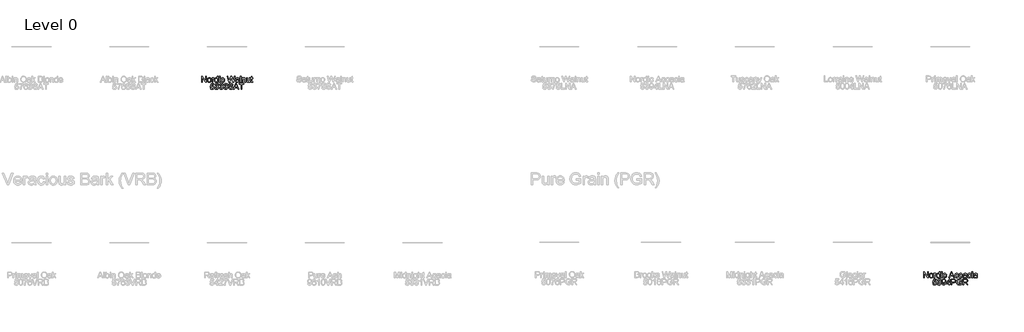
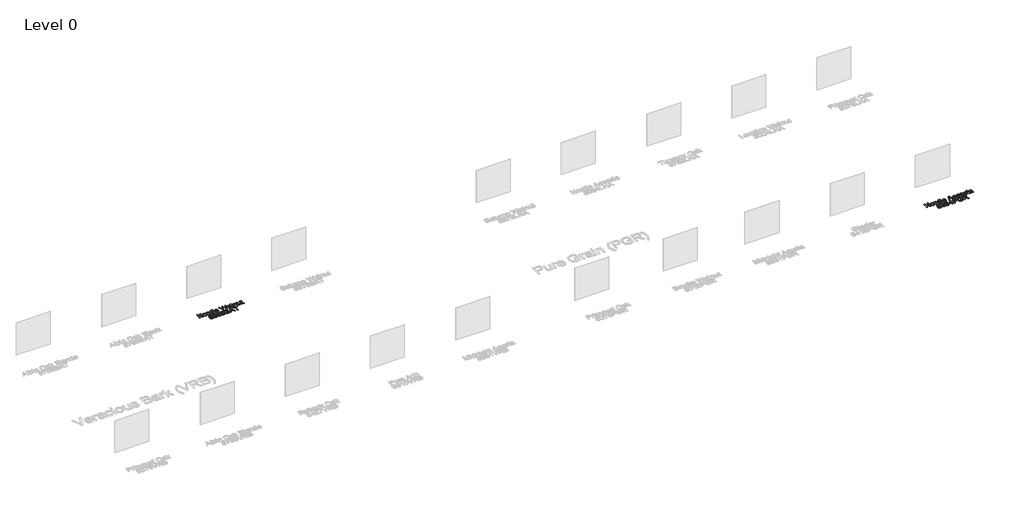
# One storey, part 21 of 43: 2 proxies.
"""IFC4 building model written with IfcOpenShell, lengths in millimetres."""

from ifc_helpers import new_model, si_unit, origin, origin_with_axes, place, context, project, spatial, polyline, outline, extrude, element, save

model = new_model("IFC4")

# Units and contexts
model_context = context("Model", 3, world=origin())
ifc_project = project(units=[si_unit("LENGTHUNIT", "METRE", prefix="MILLI")], contexts=[model_context])

# Site, building, storey
site = spatial("IfcSite", under=ifc_project)
building = spatial("IfcBuilding", under=site)
storey = spatial("IfcBuildingStorey", under=building, Name="Level 0", Elevation=0.0)

# Proxies
placement = place(None, origin())
element("IfcBuildingElementProxy", 1, Name="300mm Arial", ObjectType="300mm Arial", at=placement, inside=storey, context=model_context, shape_type="SweptSolid", body=[
    extrude(outline(polyline([(-743.2482346, -27017.4454346), (-743.2482346, -26716.0765041), (-702.9283679, -26716.0765041), (-545.474874, -26954.831919), (-545.474874, -26716.0765041), (-507.8037576, -26716.0765041), (-507.8037576, -27017.4454346), (-548.1236243, -27017.4454346), (-705.5771183, -26778.6164433), (-705.5771183, -27017.4454346), (-743.2482346, -27017.4454346)])), origin_with_axes(), (0.0, 0.0, 1.0), 10.0),
    extrude(outline(polyline([(-456.0059727, -26906.7865304), (-453.9688262, -26878.1239245), (-447.8573865, -26853.425247), (-437.6716538, -26832.690498), (-423.411628, -26815.9196776), (-409.0550331, -26805.200516), (-393.2085161, -26797.5439719), (-375.8720771, -26792.9500455), (-357.045716, -26791.4187367), (-336.2626826, -26793.2834386), (-317.4708104, -26798.8775442), (-300.6700995, -26808.2010535), (-285.86055, -26821.2539665), (-273.7733272, -26837.5948249), (-265.1395966, -26856.7821702), (-259.9593582, -26878.8160025), (-258.2326121, -26903.6963216), (-261.2860327, -26941.753714), (-270.4462944, -26970.7244212), (-285.4466827, -26992.4202618), (-306.0204833, -27008.6530549), (-330.4570448, -27018.7790068), (-357.045716, -27022.1543241), (-378.1322521, -27020.29652), (-397.0988682, -27014.7231078), (-413.9455644, -27005.4340874), (-428.6723405, -26992.4294589), (-440.6308046, -26975.9299514), (-449.1725647, -26956.1562942), (-454.2976207, -26933.1084872), (-456.0059727, -26906.7865304)]), holes=[polyline([(-418.3348564, -26906.712954), (-413.9754548, -26940.8064179), (-400.8972498, -26965.0958266), (-381.2155631, -26979.6363625), (-357.045716, -26984.4832078), (-332.9862335, -26979.6087713), (-313.341335, -26964.985462), (-300.2631301, -26940.3741566), (-295.9037284, -26905.5357316), (-300.2907212, -26872.4355491), (-313.4516996, -26848.4772342), (-333.1241893, -26833.9366983), (-357.045716, -26829.089853), (-381.2155631, -26833.9183042), (-400.8972498, -26848.4036578), (-413.9754548, -26872.6378842), (-418.3348564, -26906.712954)])]), origin_with_axes(), (0.0, 0.0, 1.0), 10.0),
    extrude(outline(polyline([(-215.8526063, -27017.4454346), (-215.8526063, -26796.1276263), (-182.8903795, -26796.1276263), (-182.8903795, -26828.8691238), (-170.7134855, -26809.8864129), (-159.4930846, -26798.7028002), (-148.2358956, -26793.2397526), (-135.9486369, -26791.4187367), (-117.1866552, -26794.3250045), (-98.1303678, -26803.0438078), (-110.7119321, -26836.8153749), (-123.9556839, -26831.0212335), (-137.1994357, -26829.089853), (-148.4474277, -26830.9476571), (-158.4998032, -26836.5210693), (-166.6207983, -26845.3870254), (-172.0746488, -26857.1224611), (-176.6547797, -26878.1653112), (-178.18149, -26901.1211477), (-178.18149, -27017.4454346), (-215.8526063, -27017.4454346)])), origin_with_axes(), (0.0, 0.0, 1.0), 10.0),
    extrude(outline(polyline([(61.9718765, -27017.4454346), (61.9718765, -26981.9080338), (50.7008919, -26999.5157858), (37.0478713, -27012.0927515), (21.0128148, -27019.6389309), (2.5957225, -27022.1543241), (-21.7580656, -27018.5122923), (-44.0517145, -27007.5861971), (-62.9240609, -26990.1393935), (-77.0139413, -26966.9352366), (-85.7879269, -26938.9118256), (-88.7125887, -26907.0072596), (-86.0178531, -26875.4981667), (-77.9336463, -26847.0424944), (-64.4691653, -26823.2589234), (-45.6336071, -26805.7661345), (-22.8525146, -26795.0055862), (2.4485697, -26791.4187367), (20.8794576, -26793.9847136), (37.17663, -26801.6826444), (50.9905989, -26813.4824594), (61.9718765, -26828.354089), (61.9718765, -26716.0765041), (99.6429928, -26716.0765041), (99.6429928, -27017.4454346), (61.9718765, -27017.4454346)]), holes=[polyline([(-51.0414724, -26906.8601068), (-46.7924354, -26940.9351766), (-34.0453243, -26965.169403), (-15.5224658, -26979.6547566), (6.0538132, -26984.4832078), (27.6208952, -26979.8754858), (45.6747041, -26966.0523198), (57.8975834, -26942.7561925), (61.9718765, -26909.7295864), (57.824007, -26873.6219685), (45.3803985, -26848.5875988), (26.8667371, -26833.9642895), (4.5087088, -26829.089853), (-17.2882994, -26833.7711514), (-35.1489702, -26847.8150466), (-47.0683469, -26871.9389084), (-51.0414724, -26906.8601068)])]), origin_with_axes(), (0.0, 0.0, 1.0), 10.0),
    extrude(outline(polyline([(156.1496672, -26753.7476204), (156.1496672, -26716.0765041), (193.8207836, -26716.0765041), (193.8207836, -26753.7476204), (156.1496672, -26753.7476204)])), origin_with_axes(), (0.0, 0.0, 1.0), 10.0),
    extrude(outline(polyline([(156.1496672, -27017.4454346), (156.1496672, -26796.1276263), (193.8207836, -26796.1276263), (193.8207836, -27017.4454346), (156.1496672, -27017.4454346)])), origin_with_axes(), (0.0, 0.0, 1.0), 10.0),
    extrude(outline(polyline([(391.5941442, -26937.3943124), (429.2652605, -26942.1032019), (418.7622295, -26975.6080546), (399.0253605, -27000.927533), (371.9124574, -27016.8476263), (339.2813244, -27022.1543241), (318.1534016, -27020.3034178), (299.2097781, -27014.7506989), (282.450454, -27005.4961675), (267.8754292, -26992.5398235), (256.0779135, -26976.1253887), (247.6511165, -26956.496585), (242.5950383, -26933.6534124), (240.9096789, -26907.5958708), (243.7883555, -26874.072624), (252.4243854, -26845.0191434), (266.9557242, -26821.5574692), (287.5203277, -26804.8096413), (312.1224362, -26794.7664629), (338.7662897, -26791.4187367), (370.5972793, -26796.0172617), (396.0455163, -26809.8128365), (414.3016603, -26832.0696972), (424.5563709, -26862.0520798), (386.8852546, -26866.7609693), (380.0518466, -26850.3258412), (369.4108599, -26838.5444203), (355.5509057, -26831.4534948), (339.0605952, -26829.089853), (314.7160042, -26833.7435603), (295.3930024, -26847.704682), (282.783847, -26871.7273763), (278.5807952, -26906.5658012), (282.6918765, -26941.8732757), (295.0251204, -26965.9787434), (313.9986343, -26979.8570917), (338.0305257, -26984.4832078), (357.5374685, -26981.5953341), (373.5311382, -26972.9317131), (385.1654063, -26958.2716156), (391.5941442, -26937.3943124)])), origin_with_axes(), (0.0, 0.0, 1.0), 10.0),
    extrude(outline(polyline([(638.5901157, -27017.4454346), (556.405278, -26716.0765041), (595.2536167, -26716.0765041), (642.9311233, -26914.1441703), (657.6464031, -26975.2861579), (673.3917525, -26921.2075046), (733.1357885, -26716.0765041), (789.1274281, -26716.0765041), (832.5375036, -26864.7744066), (851.1339384, -26919.9567058), (864.8375428, -26975.2861579), (879.1113642, -26915.9100039), (927.2303291, -26716.0765041), (966.0786678, -26716.0765041), (883.8202537, -27017.4454346), (843.5739634, -27017.4454346), (771.3219396, -26784.9440136), (761.2419729, -26752.4968216), (749.9112075, -26791.5658895), (684.0603303, -27017.4454346), (638.5901157, -27017.4454346)])), origin_with_axes(), (0.0, 0.0, 1.0), 10.0),
    extrude(outline(polyline([(1140.3075807, -26989.1920973), (1122.3089541, -27004.624747), (1103.7768986, -27014.7231078), (1084.2883499, -27020.29652), (1063.4202438, -27022.1543241), (1031.938742, -27017.6845578), (1008.7161911, -27004.2752591), (994.3963844, -26983.9129907), (989.6231155, -26958.5843153), (991.4257373, -26942.9677246), (996.8336026, -26928.7858737), (1005.1753269, -26916.6457679), (1015.7795254, -26907.1544124), (1042.1566644, -26894.7935774), (1074.7510092, -26889.1281946), (1113.2682541, -26883.1685063), (1140.0868515, -26876.1787484), (1140.3075807, -26867.7910389), (1137.7140127, -26850.9788317), (1129.9333085, -26839.9791601), (1112.5324901, -26831.8121798), (1088.2890666, -26829.089853), (1065.8482649, -26830.9016718), (1050.1764919, -26836.3371283), (1039.48952, -26846.3895038), (1032.0031214, -26862.0520798), (994.3320051, -26857.3431903), (1000.8711075, -26836.7417985), (1010.6291774, -26820.5549907), (1024.5167228, -26808.1757616), (1043.4442514, -26798.9971058), (1066.593226, -26793.313329), (1093.145109, -26791.4187367), (1118.6117401, -26793.0925998), (1138.7992646, -26798.114189), (1154.0203821, -26805.664967), (1164.5877924, -26814.9263962), (1171.5959444, -26826.3767233), (1176.1392871, -26840.4941949), (1177.9786971, -26873.4564216), (1177.9786971, -26920.3245878), (1179.8916834, -26985.7707948), (1187.3964761, -27017.4454346), (1149.7253598, -27017.4454346), (1140.3075807, -26989.1920973)]), holes=[polyline([(1140.3075807, -26913.8498647), (1079.5334751, -26925.4013594), (1047.1230714, -26931.5082005), (1032.4445798, -26941.4410143), (1027.2942318, -26955.935565), (1030.099332, -26967.1375717), (1038.5146327, -26976.3162275), (1052.3561927, -26982.4414627), (1071.4400712, -26984.4832078), (1091.673581, -26982.2299306), (1109.5526459, -26975.4700989), (1124.0471966, -26965.5096939), (1134.1271632, -26953.6546966), (1138.5969295, -26941.4410143), (1140.0868515, -26924.5184426), (1140.3075807, -26913.8498647)])]), origin_with_axes(), (0.0, 0.0, 1.0), 10.0),
    extrude(outline(polyline([(1229.776482, -27017.4454346), (1229.776482, -26716.0765041), (1267.4475983, -26716.0765041), (1267.4475983, -27017.4454346), (1229.776482, -27017.4454346)])), origin_with_axes(), (0.0, 0.0, 1.0), 10.0),
    extrude(outline(polyline([(1323.9542727, -27017.4454346), (1323.9542727, -26796.1276263), (1361.625389, -26796.1276263), (1361.625389, -26827.0297138), (1374.712791, -26811.4499114), (1390.4305493, -26800.321481), (1408.7786638, -26793.6444228), (1429.7571345, -26791.4187367), (1448.3259783, -26793.2121614), (1465.3313235, -26798.5924356), (1479.5131744, -26806.8881746), (1489.6115352, -26817.4279938), (1500.9055124, -26845.129508), (1502.8920752, -26881.5498255), (1502.8920752, -27017.4454346), (1465.2209589, -27017.4454346), (1465.2209589, -26886.6265971), (1460.8799513, -26853.2964883), (1454.8742778, -26843.3728715), (1445.5392721, -26835.6749407), (1433.5739102, -26830.7361249), (1419.6771679, -26829.089853), (1397.6134452, -26832.7870671), (1378.8054782, -26843.8787092), (1371.2891892, -26852.9332048), (1365.9204113, -26865.3078354), (1361.625389, -26900.0175017), (1361.625389, -27017.4454346), (1323.9542727, -27017.4454346)])), origin_with_axes(), (0.0, 0.0, 1.0), 10.0),
    extrude(outline(polyline([(1695.9565463, -27017.4454346), (1695.9565463, -26979.4064362), (1682.3265183, -26998.1086372), (1666.4524102, -27011.4673521), (1648.334222, -27019.4825811), (1627.9719536, -27022.1543241), (1609.623839, -27020.2781259), (1592.5449174, -27014.6495314), (1578.2159137, -27006.1882455), (1568.1175529, -26995.8139732), (1556.8971521, -26968.0756708), (1554.6898601, -26933.0533049), (1554.6898601, -26796.1276263), (1592.3609764, -26796.1276263), (1592.3609764, -26915.3213927), (1594.6418448, -26953.728273), (1600.1324836, -26966.5397635), (1609.5410656, -26976.2794393), (1622.2421915, -26982.4322657), (1637.6104618, -26984.4832078), (1653.861649, -26982.3862804), (1669.0643724, -26976.0954983), (1681.5999514, -26966.1902756), (1689.8497051, -26953.2500264), (1694.429836, -26935.5273113), (1695.9565463, -26911.2746907), (1695.9565463, -26796.1276263), (1733.6276626, -26796.1276263), (1733.6276626, -27017.4454346), (1695.9565463, -27017.4454346)])), origin_with_axes(), (0.0, 0.0, 1.0), 10.0),
    extrude(outline(polyline([(1865.4765696, -26986.0283122), (1870.1854592, -27018.5490805), (1842.0056983, -27022.1543241), (1823.9242983, -27020.5908256), (1810.4414232, -27015.9003302), (1800.9132795, -27008.671449), (1794.6960738, -26999.4927932), (1791.2747712, -26983.7290497), (1790.134337, -26956.7449053), (1790.134337, -26833.7987426), (1761.8809998, -26833.7987426), (1761.8809998, -26796.1276263), (1790.134337, -26796.1276263), (1790.134337, -26742.3432786), (1827.8054533, -26720.1967824), (1827.8054533, -26796.1276263), (1865.4765696, -26796.1276263), (1865.4765696, -26833.7987426), (1827.8054533, -26833.7987426), (1827.8054533, -26955.6412594), (1829.7920161, -26975.0654287), (1836.229951, -26981.944822), (1849.0690327, -26984.4832078), (1865.4765696, -26986.0283122)])), origin_with_axes(), (0.0, 0.0, 1.0), 10.0),
    extrude(outline(polyline([(-298.2581732, -27303.3187659), (-260.5870569, -27298.6098764), (-253.6708754, -27321.2254221), (-241.6043459, -27337.4214269), (-224.4426509, -27347.1611027), (-202.2409725, -27350.4076613), (-175.238434, -27345.8919098), (-155.0049243, -27332.3446554), (-142.3681777, -27311.3293964), (-138.1559289, -27284.4096314), (-142.1014633, -27259.0625619), (-153.9380665, -27239.6751808), (-173.757709, -27227.369528), (-201.6523613, -27223.2676438), (-219.9268994, -27224.9047187), (-234.7249526, -27229.8159433), (-255.8781674, -27246.8120915), (-293.5492837, -27242.1032019), (-260.5870569, -27086.7098472), (-114.6114812, -27086.7098472), (-114.6114812, -27124.3809635), (-230.1264277, -27124.3809635), (-246.2396591, -27207.3751416), (-219.3290911, -27191.041181), (-191.1309362, -27185.5965275), (-172.785121, -27187.2841861), (-155.9338263, -27192.3471621), (-140.5770523, -27200.7854554), (-126.7147988, -27212.5990659), (-115.2391799, -27227.0660254), (-107.0423092, -27243.4643653), (-102.1241867, -27261.7940857), (-100.4848126, -27282.0551866), (-106.3893186, -27319.7263029), (-113.7699511, -27336.520116), (-124.1028367, -27351.9527657), (-139.7562156, -27367.7578959), (-158.0215566, -27379.0472746), (-178.8988599, -27385.8209019), (-202.3881253, -27388.0787776), (-239.3878569, -27382.2754392), (-255.0665277, -27375.0212661), (-268.8644018, -27364.8654237), (-280.3446193, -27352.3137499), (-289.0703204, -27337.8720823), (-298.2581732, -27303.3187659)])), origin_with_axes(), (0.0, 0.0, 1.0), 10.0),
    extrude(outline(polyline([(-67.5225858, -27303.3187659), (-29.8514695, -27298.6098764), (-21.4177748, -27322.2830828), (-9.0661368, -27338.2675555), (7.8104497, -27347.3726349), (29.8189901, -27350.4076613), (55.6443062, -27346.2322007), (75.5835103, -27333.7058187), (88.3306214, -27315.0174134), (92.5796585, -27292.3558825), (88.3674096, -27270.8439828), (75.7306631, -27253.3971792), (56.6007994, -27241.8364875), (32.9091989, -27237.9829236), (6.4952716, -27242.1032019), (10.6891264, -27204.4320856), (16.7223911, -27204.873544), (39.2919515, -27202.1696114), (59.4702789, -27194.0578134), (73.7073121, -27180.3358149), (78.4529899, -27160.801281), (75.0132932, -27144.5316998), (64.6942032, -27131.3339332), (48.9488539, -27122.5875388), (29.2303789, -27119.6720739), (9.4751158, -27122.6151299), (-6.6749038, -27131.4442978), (-18.4655218, -27146.1595776), (-25.14258, -27166.7609693), (-62.8136963, -27162.0520798), (-51.7220541, -27128.2253303), (-31.9851851, -27102.9702314), (-4.9826466, -27087.2432761), (27.9060037, -27082.0009576), (51.5884072, -27084.5853287), (73.3394301, -27092.3384417), (91.6783476, -27104.570518), (105.1244345, -27120.5917789), (113.3741883, -27139.050258), (116.1241062, -27158.593989), (113.512144, -27176.8041478), (105.6762575, -27193.3220494), (92.7268113, -27207.3935357), (74.7741699, -27218.2644487), (98.3554058, -27227.7925923), (115.8298006, -27244.0161883), (126.6455312, -27266.0523198), (130.2507748, -27293.0180701), (128.448153, -27312.1295397), (123.0402877, -27329.7326932), (114.0271788, -27345.8275305), (101.4088264, -27360.4140516), (86.0359575, -27372.5173692), (68.7592993, -27381.1625961), (49.5788518, -27386.3497322), (28.4946149, -27388.0787776), (9.4383276, -27386.6026511), (-7.9257026, -27382.1742716), (-23.5974756, -27374.7936391), (-37.5769914, -27364.4607535), (-49.2986315, -27351.7826203), (-58.1967772, -27337.3662446), (-64.2714287, -27321.2116265), (-67.5225858, -27303.3187659)])), origin_with_axes(), (0.0, 0.0, 1.0), 10.0),
    extrude(outline(polyline([(163.2130016, -27303.3187659), (200.8841179, -27298.6098764), (209.3178126, -27322.2830828), (221.6694506, -27338.2675555), (238.5460371, -27347.3726349), (260.5545775, -27350.4076613), (286.3798935, -27346.2322007), (306.3190977, -27333.7058187), (319.0662088, -27315.0174134), (323.3152459, -27292.3558825), (319.102997, -27270.8439828), (306.4662505, -27253.3971792), (287.3363867, -27241.8364875), (263.6447862, -27237.9829236), (237.230859, -27242.1032019), (241.4247137, -27204.4320856), (247.4579785, -27204.873544), (270.0275389, -27202.1696114), (290.2058663, -27194.0578134), (304.4428995, -27180.3358149), (309.1885772, -27160.801281), (305.7488806, -27144.5316998), (295.4297906, -27131.3339332), (279.6844412, -27122.5875388), (259.9659663, -27119.6720739), (240.2107031, -27122.6151299), (224.0606836, -27131.4442978), (212.2700656, -27146.1595776), (205.5930074, -27166.7609693), (167.9218911, -27162.0520798), (179.0135332, -27128.2253303), (198.7504023, -27102.9702314), (225.7529407, -27087.2432761), (258.6415911, -27082.0009576), (282.3239945, -27084.5853287), (304.0750175, -27092.3384417), (322.413935, -27104.570518), (335.8600219, -27120.5917789), (344.1097756, -27139.050258), (346.8596935, -27158.593989), (344.2477314, -27176.8041478), (336.4118449, -27193.3220494), (323.4623987, -27207.3935357), (305.5097573, -27218.2644487), (329.0909932, -27227.7925923), (346.565388, -27244.0161883), (357.3811186, -27266.0523198), (360.9863622, -27293.0180701), (359.1837404, -27312.1295397), (353.7758751, -27329.7326932), (344.7627662, -27345.8275305), (332.1444137, -27360.4140516), (316.7715449, -27372.5173692), (299.4948867, -27381.1625961), (280.3144391, -27386.3497322), (259.2302023, -27388.0787776), (240.1739149, -27386.6026511), (222.8098848, -27382.1742716), (207.1381118, -27374.7936391), (193.158596, -27364.4607535), (181.4369559, -27351.7826203), (172.5388101, -27337.3662446), (166.4641587, -27321.2116265), (163.2130016, -27303.3187659)])), origin_with_axes(), (0.0, 0.0, 1.0), 10.0),
    extrude(outline(polyline([(393.9485889, -27303.3187659), (431.6197052, -27298.6098764), (440.0534, -27322.2830828), (452.405038, -27338.2675555), (469.2816245, -27347.3726349), (491.2901649, -27350.4076613), (517.1154809, -27346.2322007), (537.0546851, -27333.7058187), (549.8017962, -27315.0174134), (554.0508332, -27292.3558825), (549.8385844, -27270.8439828), (537.2018379, -27253.3971792), (518.0719741, -27241.8364875), (494.3803736, -27237.9829236), (467.9664464, -27242.1032019), (472.1603011, -27204.4320856), (478.1935658, -27204.873544), (500.7631262, -27202.1696114), (520.9414537, -27194.0578134), (535.1784869, -27180.3358149), (539.9241646, -27160.801281), (536.484468, -27144.5316998), (526.165378, -27131.3339332), (510.4200286, -27122.5875388), (490.7015537, -27119.6720739), (470.9462905, -27122.6151299), (454.7962709, -27131.4442978), (443.005653, -27146.1595776), (436.3285948, -27166.7609693), (398.6574785, -27162.0520798), (409.7491206, -27128.2253303), (429.4859897, -27102.9702314), (456.4885281, -27087.2432761), (489.3771785, -27082.0009576), (513.0595819, -27084.5853287), (534.8106049, -27092.3384417), (553.1495223, -27104.570518), (566.5956093, -27120.5917789), (574.845363, -27139.050258), (577.5952809, -27158.593989), (574.9833188, -27176.8041478), (567.1474323, -27193.3220494), (554.197986, -27207.3935357), (536.2453447, -27218.2644487), (559.8265806, -27227.7925923), (577.3009753, -27244.0161883), (588.116706, -27266.0523198), (591.7219495, -27293.0180701), (589.9193278, -27312.1295397), (584.5114624, -27329.7326932), (575.4983535, -27345.8275305), (562.8800011, -27360.4140516), (547.5071322, -27372.5173692), (530.230474, -27381.1625961), (511.0500265, -27386.3497322), (489.9657897, -27388.0787776), (470.9095023, -27386.6026511), (453.5454721, -27382.1742716), (437.8736992, -27374.7936391), (423.8941833, -27364.4607535), (412.1725433, -27351.7826203), (403.2743975, -27337.3662446), (397.1997461, -27321.2116265), (393.9485889, -27303.3187659)])), origin_with_axes(), (0.0, 0.0, 1.0), 10.0),
    extrude(outline(polyline([(624.6841763, -27279.7743182), (662.3552926, -27279.7743182), (666.6779061, -27300.6792126), (674.4953985, -27317.4822228), (686.6906866, -27330.8179451), (704.1466873, -27341.320976), (725.483843, -27348.13599), (749.3225963, -27350.4076613), (770.3102641, -27348.687813), (788.6859698, -27343.528268), (803.5759935, -27335.3612877), (814.1066156, -27324.6191335), (820.3698066, -27312.2858896), (822.4575369, -27299.3456404), (820.8940384, -27286.736485), (816.203543, -27275.8379809), (806.6753993, -27266.5397635), (790.5989561, -27258.7314681), (735.7477506, -27244.3472821), (699.7413004, -27234.8283355), (676.7026904, -27225.7692414), (657.9499057, -27213.0957066), (644.6601686, -27197.7366333), (636.7415087, -27180.0231153), (634.1019554, -27160.2862462), (637.3669081, -27138.2225236), (647.1617662, -27117.648723), (663.2290123, -27100.2111164), (685.3111291, -27087.5559758), (711.8170269, -27079.858045), (741.155616, -27077.2920681), (772.9406204, -27079.9776067), (800.7524992, -27088.0342224), (823.5979711, -27101.2963683), (840.4837547, -27119.5984975), (851.1707266, -27141.800176), (855.4197637, -27166.7609693), (817.7486474, -27166.7609693), (810.8324659, -27144.2833794), (796.4114917, -27128.0597834), (773.8787194, -27118.2373342), (742.627144, -27114.9631844), (710.6398045, -27118.200546), (688.6956435, -27127.9126306), (676.0037146, -27142.2048461), (671.7730717, -27159.1826002), (674.7713099, -27173.6587567), (683.7660247, -27185.3022219), (705.0296041, -27195.7132823), (745.2758943, -27206.345072), (786.8097716, -27216.4434328), (811.9361118, -27225.2542066), (833.4112233, -27238.9210227), (848.3932176, -27255.7884122), (857.1947943, -27275.672434), (860.1286532, -27298.3891472), (856.7533359, -27321.6116981), (846.627384, -27343.4546916), (830.1646647, -27362.2534616), (807.7790453, -27376.343342), (780.8592803, -27385.1449187), (750.7941243, -27388.0787776), (713.8863631, -27384.9149925), (683.5085073, -27375.423637), (659.3110691, -27359.567923), (640.9445605, -27337.3110623), (629.1539425, -27310.1981592), (624.6841763, -27279.7743182)])), origin_with_axes(), (0.0, 0.0, 1.0), 10.0),
    extrude(outline(polyline([(881.5393853, -27383.3698881), (1001.8367978, -27082.0009576), (1033.9161077, -27082.0009576), (1154.2135202, -27383.3698881), (1114.4086883, -27383.3698881), (1079.9013571, -27289.1920973), (955.777972, -27289.1920973), (921.3442172, -27383.3698881), (881.5393853, -27383.3698881)]), holes=[polyline([(969.610335, -27251.520981), (1066.1425705, -27251.520981), (1038.9928793, -27177.4295472), (1017.8764527, -27119.6720739), (999.114471, -27170.9548241), (969.610335, -27251.520981)])]), origin_with_axes(), (0.0, 0.0, 1.0), 10.0),
    extrude(outline(polyline([(1269.802043, -27383.3698881), (1269.802043, -27119.6720739), (1170.9153627, -27119.6720739), (1170.9153627, -27082.0009576), (1406.3598397, -27082.0009576), (1406.3598397, -27119.6720739), (1307.4731594, -27119.6720739), (1307.4731594, -27383.3698881), (1269.802043, -27383.3698881)])), origin_with_axes(), (0.0, 0.0, 1.0), 10.0),
])
element("IfcBuildingElementProxy", 2, Name="300mm Arial", ObjectType="300mm Arial", at=placement, inside=storey, context=model_context, shape_type="SweptSolid", body=[
    extrude(outline(polyline([(36183.7639776, -37019.4454346), (36183.7639776, -36718.0765041), (36224.0838443, -36718.0765041), (36381.5373382, -36956.831919), (36381.5373382, -36718.0765041), (36419.2084545, -36718.0765041), (36419.2084545, -37019.4454346), (36378.8885878, -37019.4454346), (36221.4350939, -36780.6164433), (36221.4350939, -37019.4454346), (36183.7639776, -37019.4454346)])), origin_with_axes(), (0.0, 0.0, 1.0), 10.0),
    extrude(outline(polyline([(36471.0062394, -36908.7865304), (36473.043386, -36880.1239245), (36479.1548256, -36855.425247), (36489.3405584, -36834.690498), (36503.6005842, -36817.9196776), (36517.9571791, -36807.200516), (36533.803696, -36799.5439719), (36551.140135, -36794.9500455), (36569.9664961, -36793.4187367), (36590.7495296, -36795.2834386), (36609.5414018, -36800.8775442), (36626.3421126, -36810.2010535), (36641.1516622, -36823.2539665), (36653.238885, -36839.5948249), (36661.8726156, -36858.7821702), (36667.0528539, -36880.8160025), (36668.7796, -36905.6963216), (36665.7261795, -36943.753714), (36656.5659178, -36972.7244212), (36641.5655294, -36994.4202618), (36620.9917289, -37010.6530549), (36596.5551673, -37020.7790068), (36569.9664961, -37024.1543241), (36548.87996, -37022.29652), (36529.9133439, -37016.7231078), (36513.0666478, -37007.4340874), (36498.3398717, -36994.4294589), (36486.3814076, -36977.9299514), (36477.8396475, -36958.1562942), (36472.7145914, -36935.1084872), (36471.0062394, -36908.7865304)]), holes=[polyline([(36508.6773557, -36908.712954), (36513.0367574, -36942.8064179), (36526.1149623, -36967.0958266), (36545.796649, -36981.6363625), (36569.9664961, -36986.4832078), (36594.0259786, -36981.6087713), (36613.6708772, -36966.985462), (36626.7490821, -36942.3741566), (36631.1084837, -36907.5357316), (36626.7214909, -36874.4355491), (36613.5605126, -36850.4772342), (36593.8880229, -36835.9366983), (36569.9664961, -36831.089853), (36545.796649, -36835.9183042), (36526.1149623, -36850.4036578), (36513.0367574, -36874.6378842), (36508.6773557, -36908.712954)])]), origin_with_axes(), (0.0, 0.0, 1.0), 10.0),
    extrude(outline(polyline([(36711.1596059, -37019.4454346), (36711.1596059, -36798.1276263), (36744.1218326, -36798.1276263), (36744.1218326, -36830.8691238), (36756.2987267, -36811.8864129), (36767.5191275, -36800.7028002), (36778.7763166, -36795.2397526), (36791.0635752, -36793.4187367), (36809.825557, -36796.3250045), (36828.8818443, -36805.0438078), (36816.3002801, -36838.8153749), (36803.0565283, -36833.0212335), (36789.8127765, -36831.089853), (36778.5647844, -36832.9476571), (36768.5124089, -36838.5210693), (36760.3914139, -36847.3870254), (36754.9375633, -36859.1224611), (36750.3574325, -36880.1653112), (36748.8307222, -36903.1211477), (36748.8307222, -37019.4454346), (36711.1596059, -37019.4454346)])), origin_with_axes(), (0.0, 0.0, 1.0), 10.0),
    extrude(outline(polyline([(36988.9840886, -37019.4454346), (36988.9840886, -36983.9080338), (36977.713104, -37001.5157858), (36964.0600835, -37014.0927515), (36948.025027, -37021.6389309), (36929.6079346, -37024.1543241), (36905.2541465, -37020.5122923), (36882.9604976, -37009.5861971), (36864.0881513, -36992.1393935), (36849.9982709, -36968.9352366), (36841.2242853, -36940.9118256), (36838.2996234, -36909.0072596), (36840.994359, -36877.4981667), (36849.0785659, -36849.0424944), (36862.5430469, -36825.2589234), (36881.3786051, -36807.7661345), (36904.1596976, -36797.0055862), (36929.4607818, -36793.4187367), (36947.8916698, -36795.9847136), (36964.1888422, -36803.6826444), (36978.0028111, -36815.4824594), (36988.9840886, -36830.354089), (36988.9840886, -36718.0765041), (37026.6552049, -36718.0765041), (37026.6552049, -37019.4454346), (36988.9840886, -37019.4454346)]), holes=[polyline([(36875.9707397, -36908.8601068), (36880.2197768, -36942.9351766), (36892.9668879, -36967.169403), (36911.4897464, -36981.6547566), (36933.0660254, -36986.4832078), (36954.6331073, -36981.8754858), (36972.6869163, -36968.0523198), (36984.9097955, -36944.7561925), (36988.9840886, -36911.7295864), (36984.8362191, -36875.6219685), (36972.3926107, -36850.5875988), (36953.8789492, -36835.9642895), (36931.520921, -36831.089853), (36909.7239128, -36835.7711514), (36891.8632419, -36849.8150466), (36879.9438653, -36873.9389084), (36875.9707397, -36908.8601068)])]), origin_with_axes(), (0.0, 0.0, 1.0), 10.0),
    extrude(outline(polyline([(37083.1618794, -36755.7476204), (37083.1618794, -36718.0765041), (37120.8329957, -36718.0765041), (37120.8329957, -36755.7476204), (37083.1618794, -36755.7476204)])), origin_with_axes(), (0.0, 0.0, 1.0), 10.0),
    extrude(outline(polyline([(37083.1618794, -37019.4454346), (37083.1618794, -36798.1276263), (37120.8329957, -36798.1276263), (37120.8329957, -37019.4454346), (37083.1618794, -37019.4454346)])), origin_with_axes(), (0.0, 0.0, 1.0), 10.0),
    extrude(outline(polyline([(37318.6063563, -36939.3943124), (37356.2774726, -36944.1032019), (37345.7744417, -36977.6080546), (37326.0375726, -37002.927533), (37298.9246696, -37018.8476263), (37266.2935366, -37024.1543241), (37245.1656138, -37022.3034178), (37226.2219903, -37016.7506989), (37209.4626661, -37007.4961675), (37194.8876413, -36994.5398235), (37183.0901256, -36978.1253887), (37174.6633287, -36958.496585), (37169.6072505, -36935.6534124), (37167.9218911, -36909.5958708), (37170.8005677, -36876.072624), (37179.4365975, -36847.0191434), (37193.9679364, -36823.5574692), (37214.5325399, -36806.8096413), (37239.1346483, -36796.7664629), (37265.7785018, -36793.4187367), (37297.6094914, -36798.0172617), (37323.0577285, -36811.8128365), (37341.3138725, -36834.0696972), (37351.5685831, -36864.0520798), (37313.8974668, -36868.7609693), (37307.0640587, -36852.3258412), (37296.423072, -36840.5444203), (37282.5631178, -36833.4534948), (37266.0728074, -36831.089853), (37241.7282164, -36835.7435603), (37222.4052146, -36849.704682), (37209.7960592, -36873.7273763), (37205.5930074, -36908.5658012), (37209.7040887, -36943.8732757), (37222.0373326, -36967.9787434), (37241.0108465, -36981.8570917), (37265.0427378, -36986.4832078), (37284.5496806, -36983.5953341), (37300.5433504, -36974.9317131), (37312.1776185, -36960.2716156), (37318.6063563, -36939.3943124)])), origin_with_axes(), (0.0, 0.0, 1.0), 10.0),
    extrude(outline(polyline([(37476.574885, -37019.4454346), (37596.8722975, -36718.0765041), (37628.9516074, -36718.0765041), (37749.2490199, -37019.4454346), (37709.444188, -37019.4454346), (37674.9368568, -36925.2676438), (37550.8134717, -36925.2676438), (37516.3797169, -37019.4454346), (37476.574885, -37019.4454346)]), holes=[polyline([(37564.6458347, -36887.5965275), (37661.1780702, -36887.5965275), (37634.028379, -36813.5050937), (37612.9119525, -36755.7476204), (37594.1499707, -36807.0303705), (37564.6458347, -36887.5965275)])]), origin_with_axes(), (0.0, 0.0, 1.0), 10.0),
    extrude(outline(polyline([(37926.0531068, -36939.3943124), (37963.7242231, -36944.1032019), (37953.2211921, -36977.6080546), (37933.4843231, -37002.927533), (37906.37142, -37018.8476263), (37873.740287, -37024.1543241), (37852.6123642, -37022.3034178), (37833.6687407, -37016.7506989), (37816.9094166, -37007.4961675), (37802.3343918, -36994.5398235), (37790.536876, -36978.1253887), (37782.1100791, -36958.496585), (37777.0540009, -36935.6534124), (37775.3686415, -36909.5958708), (37778.2473181, -36876.072624), (37786.883348, -36847.0191434), (37801.4146868, -36823.5574692), (37821.9792903, -36806.8096413), (37846.5813987, -36796.7664629), (37873.2252522, -36793.4187367), (37905.0562419, -36798.0172617), (37930.5044789, -36811.8128365), (37948.7606229, -36834.0696972), (37959.0153335, -36864.0520798), (37921.3442172, -36868.7609693), (37914.5108092, -36852.3258412), (37903.8698224, -36840.5444203), (37890.0098683, -36833.4534948), (37873.5195578, -36831.089853), (37849.1749668, -36835.7435603), (37829.851965, -36849.704682), (37817.2428096, -36873.7273763), (37813.0397578, -36908.5658012), (37817.1508391, -36943.8732757), (37829.484083, -36967.9787434), (37848.4575969, -36981.8570917), (37872.4894883, -36986.4832078), (37891.9964311, -36983.5953341), (37907.9901008, -36974.9317131), (37919.6243689, -36960.2716156), (37926.0531068, -36939.3943124)])), origin_with_axes(), (0.0, 0.0, 1.0), 10.0),
    extrude(outline(polyline([(38137.953136, -36939.3943124), (38175.6242523, -36944.1032019), (38165.1212213, -36977.6080546), (38145.3843523, -37002.927533), (38118.2714492, -37018.8476263), (38085.6403163, -37024.1543241), (38064.5123934, -37022.3034178), (38045.5687699, -37016.7506989), (38028.8094458, -37007.4961675), (38014.234421, -36994.5398235), (38002.4369053, -36978.1253887), (37994.0101083, -36958.496585), (37988.9540301, -36935.6534124), (37987.2686708, -36909.5958708), (37990.1473474, -36876.072624), (37998.7833772, -36847.0191434), (38013.314716, -36823.5574692), (38033.8793195, -36806.8096413), (38058.481428, -36796.7664629), (38085.1252815, -36793.4187367), (38116.9562711, -36798.0172617), (38142.4045081, -36811.8128365), (38160.6606521, -36834.0696972), (38170.9153627, -36864.0520798), (38133.2442464, -36868.7609693), (38126.4108384, -36852.3258412), (38115.7698517, -36840.5444203), (38101.9098975, -36833.4534948), (38085.4195871, -36831.089853), (38061.074996, -36835.7435603), (38041.7519942, -36849.704682), (38029.1428389, -36873.7273763), (38024.9397871, -36908.5658012), (38029.0508684, -36943.8732757), (38041.3841122, -36967.9787434), (38060.3576261, -36981.8570917), (38084.3895175, -36986.4832078), (38103.8964603, -36983.5953341), (38119.89013, -36974.9317131), (38131.5243981, -36960.2716156), (38137.953136, -36939.3943124)])), origin_with_axes(), (0.0, 0.0, 1.0), 10.0),
    extrude(outline(polyline([(38349.8531652, -36991.1920973), (38331.8545386, -37006.624747), (38313.3224831, -37016.7231078), (38293.8339344, -37022.29652), (38272.9658282, -37024.1543241), (38241.4843265, -37019.6845578), (38218.2617755, -37006.2752591), (38203.9419689, -36985.9129907), (38199.1687, -36960.5843153), (38200.9713217, -36944.9677246), (38206.3791871, -36930.7858737), (38214.7209113, -36918.6457679), (38225.3251098, -36909.1544124), (38251.7022489, -36896.7935774), (38284.2965937, -36891.1281946), (38322.8138386, -36885.1685063), (38349.632436, -36878.1787484), (38349.8531652, -36869.7910389), (38347.2595971, -36852.9788317), (38339.4788929, -36841.9791601), (38322.0780746, -36833.8121798), (38297.8346511, -36831.089853), (38275.3938494, -36832.9016718), (38259.7220764, -36838.3371283), (38249.0351044, -36848.3895038), (38241.5487058, -36864.0520798), (38203.8775895, -36859.3431903), (38210.416692, -36838.7417985), (38220.1747619, -36822.5549907), (38234.0623072, -36810.1757616), (38252.9898359, -36800.9971058), (38276.1388104, -36795.313329), (38302.6906934, -36793.4187367), (38328.1573245, -36795.0925998), (38348.344849, -36800.114189), (38363.5659666, -36807.664967), (38374.1333769, -36816.9263962), (38381.1415289, -36828.3767233), (38385.6848715, -36842.4941949), (38387.5242815, -36875.4564216), (38387.5242815, -36922.3245878), (38389.4372679, -36987.7707948), (38396.9420606, -37019.4454346), (38359.2709443, -37019.4454346), (38349.8531652, -36991.1920973)]), holes=[polyline([(38349.8531652, -36915.8498647), (38289.0790596, -36927.4013594), (38256.6686558, -36933.5082005), (38241.9901642, -36943.4410143), (38236.8398163, -36957.935565), (38239.6449165, -36969.1375717), (38248.0602171, -36978.3162275), (38261.9017772, -36984.4414627), (38280.9856557, -36986.4832078), (38301.2191654, -36984.2299306), (38319.0982304, -36977.4700989), (38333.592781, -36967.5096939), (38343.6727477, -36955.6546966), (38348.1425139, -36943.4410143), (38349.632436, -36926.5184426), (38349.8531652, -36915.8498647)])]), origin_with_axes(), (0.0, 0.0, 1.0), 10.0),
    extrude(outline(polyline([(38580.5887526, -36939.3943124), (38618.2598689, -36944.1032019), (38607.7568379, -36977.6080546), (38588.0199689, -37002.927533), (38560.9070658, -37018.8476263), (38528.2759329, -37024.1543241), (38507.14801, -37022.3034178), (38488.2043865, -37016.7506989), (38471.4450624, -37007.4961675), (38456.8700376, -36994.5398235), (38445.0725219, -36978.1253887), (38436.6457249, -36958.496585), (38431.5896467, -36935.6534124), (38429.9042873, -36909.5958708), (38432.782964, -36876.072624), (38441.4189938, -36847.0191434), (38455.9503326, -36823.5574692), (38476.5149361, -36806.8096413), (38501.1170446, -36796.7664629), (38527.7608981, -36793.4187367), (38559.5918877, -36798.0172617), (38585.0401247, -36811.8128365), (38603.2962687, -36834.0696972), (38613.5509793, -36864.0520798), (38575.879863, -36868.7609693), (38569.046455, -36852.3258412), (38558.4054683, -36840.5444203), (38544.5455141, -36833.4534948), (38528.0552037, -36831.089853), (38503.7106126, -36835.7435603), (38484.3876108, -36849.704682), (38471.7784554, -36873.7273763), (38467.5754037, -36908.5658012), (38471.6864849, -36943.8732757), (38484.0197288, -36967.9787434), (38502.9932427, -36981.8570917), (38527.0251341, -36986.4832078), (38546.5320769, -36983.5953341), (38562.5257466, -36974.9317131), (38574.1600147, -36960.2716156), (38580.5887526, -36939.3943124)])), origin_with_axes(), (0.0, 0.0, 1.0), 10.0),
    extrude(outline(polyline([(38651.2220956, -37019.4454346), (38651.2220956, -36798.1276263), (38688.893212, -36798.1276263), (38688.893212, -37019.4454346), (38651.2220956, -37019.4454346)])), origin_with_axes(), (0.0, 0.0, 1.0), 10.0),
    extrude(outline(polyline([(38651.2220956, -36755.7476204), (38651.2220956, -36718.0765041), (38688.893212, -36718.0765041), (38688.893212, -36755.7476204), (38651.2220956, -36755.7476204)])), origin_with_axes(), (0.0, 0.0, 1.0), 10.0),
    extrude(outline(polyline([(38886.6665726, -36991.1920973), (38868.6679459, -37006.624747), (38850.1358904, -37016.7231078), (38830.6473417, -37022.29652), (38809.7792356, -37024.1543241), (38778.2977338, -37019.6845578), (38755.0751829, -37006.2752591), (38740.7553762, -36985.9129907), (38735.9821073, -36960.5843153), (38737.7847291, -36944.9677246), (38743.1925944, -36930.7858737), (38751.5343187, -36918.6457679), (38762.1385172, -36909.1544124), (38788.5156562, -36896.7935774), (38821.110001, -36891.1281946), (38859.6272459, -36885.1685063), (38886.4458434, -36878.1787484), (38886.6665726, -36869.7910389), (38884.0730045, -36852.9788317), (38876.2923003, -36841.9791601), (38858.8914819, -36833.8121798), (38834.6480584, -36831.089853), (38812.2072567, -36832.9016718), (38796.5354837, -36838.3371283), (38785.8485118, -36848.3895038), (38778.3621132, -36864.0520798), (38740.6909969, -36859.3431903), (38747.2300993, -36838.7417985), (38756.9881693, -36822.5549907), (38770.8757146, -36810.1757616), (38789.8032432, -36800.9971058), (38812.9522178, -36795.313329), (38839.5041008, -36793.4187367), (38864.9707319, -36795.0925998), (38885.1582564, -36800.114189), (38900.3793739, -36807.664967), (38910.9467842, -36816.9263962), (38917.9549362, -36828.3767233), (38922.4982789, -36842.4941949), (38924.3376889, -36875.4564216), (38924.3376889, -36922.3245878), (38926.2506752, -36987.7707948), (38933.7554679, -37019.4454346), (38896.0843516, -37019.4454346), (38886.6665726, -36991.1920973)]), holes=[polyline([(38886.6665726, -36915.8498647), (38825.892467, -36927.4013594), (38793.4820632, -36933.5082005), (38778.8035716, -36943.4410143), (38773.6532236, -36957.935565), (38776.4583239, -36969.1375717), (38784.8736245, -36978.3162275), (38798.7151846, -36984.4414627), (38817.7990631, -36986.4832078), (38838.0325728, -36984.2299306), (38855.9116378, -36977.4700989), (38870.4061884, -36967.5096939), (38880.486155, -36955.6546966), (38884.9559213, -36943.4410143), (38886.4458434, -36926.5184426), (38886.6665726, -36915.8498647)])]), origin_with_axes(), (0.0, 0.0, 1.0), 10.0),
    extrude(outline(polyline([(36654.6529314, -37305.3187659), (36692.3240477, -37300.6098764), (36699.2402292, -37323.2254221), (36711.3067587, -37339.4214269), (36728.4684538, -37349.1611027), (36750.6701322, -37352.4076613), (36777.6726706, -37347.8919098), (36797.9061803, -37334.3446554), (36810.5429269, -37313.3293964), (36814.7551757, -37286.4096314), (36810.8096413, -37261.0625619), (36798.9730381, -37241.6751808), (36779.1533956, -37229.369528), (36751.2587434, -37225.2676438), (36732.9842052, -37226.9047187), (36718.186152, -37231.8159433), (36697.0329373, -37248.8120915), (36659.361821, -37244.1032019), (36692.3240477, -37088.7098472), (36838.2996234, -37088.7098472), (36838.2996234, -37126.3809635), (36722.7846769, -37126.3809635), (36706.6714455, -37209.3751416), (36733.5820135, -37193.041181), (36761.7801684, -37187.5965275), (36780.1259837, -37189.2841861), (36796.9772783, -37194.3471621), (36812.3340523, -37202.7854554), (36826.1963058, -37214.5990659), (36837.6719248, -37229.0660254), (36845.8687955, -37245.4643653), (36850.7869179, -37263.7940857), (36852.426292, -37284.0551866), (36846.521786, -37321.7263029), (36839.1411535, -37338.520116), (36828.8082679, -37353.9527657), (36813.154889, -37369.7578959), (36794.889548, -37381.0472746), (36774.0122448, -37387.8209019), (36750.5229794, -37390.0787776), (36713.5232477, -37384.2754392), (36697.8445769, -37377.0212661), (36684.0467028, -37366.8654237), (36672.5664853, -37354.3137499), (36663.8407843, -37339.8720823), (36654.6529314, -37305.3187659)])), origin_with_axes(), (0.0, 0.0, 1.0), 10.0),
    extrude(outline(polyline([(36885.3885188, -37305.3187659), (36923.0596351, -37300.6098764), (36931.4933298, -37324.2830828), (36943.8449678, -37340.2675555), (36960.7215544, -37349.3726349), (36982.7300947, -37352.4076613), (37008.5554108, -37348.2322007), (37028.4946149, -37335.7058187), (37041.2417261, -37317.0174134), (37045.4907631, -37294.3558825), (37041.2785143, -37272.8439828), (37028.6417677, -37255.3971792), (37009.511904, -37243.8364875), (36985.8203035, -37239.9829236), (36959.4063762, -37244.1032019), (36963.600231, -37206.4320856), (36969.6334957, -37206.873544), (36992.2030561, -37204.1696114), (37012.3813835, -37196.0578134), (37026.6184167, -37182.3358149), (37031.3640945, -37162.801281), (37027.9243978, -37146.5316998), (37017.6053079, -37133.3339332), (37001.8599585, -37124.5875388), (36982.1414835, -37121.6720739), (36962.3862204, -37124.6151299), (36946.2362008, -37133.4442978), (36934.4455829, -37148.1595776), (36927.7685246, -37168.7609693), (36890.0974083, -37164.0520798), (36901.1890505, -37130.2253303), (36920.9259195, -37104.9702314), (36947.928458, -37089.2432761), (36980.8171083, -37084.0009576), (37004.4995118, -37086.5853287), (37026.2505348, -37094.3384417), (37044.5894522, -37106.570518), (37058.0355391, -37122.5917789), (37066.2852929, -37141.050258), (37069.0352108, -37160.593989), (37066.4232486, -37178.8041478), (37058.5873621, -37195.3220494), (37045.6379159, -37209.3935357), (37027.6852745, -37220.2644487), (37051.2665104, -37229.7925923), (37068.7409052, -37246.0161883), (37079.5566359, -37268.0523198), (37083.1618794, -37295.0180701), (37081.3592576, -37314.1295397), (37075.9513923, -37331.7326932), (37066.9382834, -37347.8275305), (37054.319931, -37362.4140516), (37038.9470621, -37374.5173692), (37021.6704039, -37383.1625961), (37002.4899564, -37388.3497322), (36981.4057195, -37390.0787776), (36962.3494322, -37388.6026511), (36944.985402, -37384.1742716), (36929.313629, -37376.7936391), (36915.3341132, -37366.4607535), (36903.6124731, -37353.7826203), (36894.7143274, -37339.3662446), (36888.6396759, -37323.2116265), (36885.3885188, -37305.3187659)])), origin_with_axes(), (0.0, 0.0, 1.0), 10.0),
    extrude(outline(polyline([(37120.8329957, -37310.0276555), (37158.504112, -37305.3187659), (37164.9420469, -37326.7019069), (37175.4266838, -37341.2608369), (37189.7005052, -37349.6209552), (37207.5059938, -37352.4076613), (37223.4812694, -37350.6142366), (37238.0034112, -37345.2339624), (37250.0699406, -37336.85545), (37258.6783793, -37326.0673105), (37271.0024261, -37293.3258129), (37276.4470797, -37249.6214319), (37276.2263505, -37242.263792), (37263.1757367, -37258.1930824), (37246.0968151, -37270.8114348), (37226.2219903, -37279.0335974), (37204.783667, -37281.7743182), (37186.8885072, -37280.1004552), (37170.4326857, -37275.0788659), (37155.4162025, -37266.7095505), (37141.8390576, -37254.992509), (37130.5887664, -37240.5393451), (37122.552844, -37223.9616627), (37117.7312906, -37205.2594618), (37116.1241062, -37184.4327423), (37117.8094656, -37162.9116456), (37122.8655437, -37143.5978409), (37131.2923407, -37126.4913281), (37143.0898564, -37111.5921073), (37157.4257579, -37099.5209793), (37173.4677122, -37090.898745), (37191.2157192, -37085.7254045), (37210.6697789, -37084.0009576), (37238.7667663, -37087.937295), (37264.343762, -37099.746307), (37285.7361, -37118.8393826), (37301.2791143, -37144.6279104), (37310.7428787, -37180.2756758), (37313.8974668, -37228.9464637), (37310.7520757, -37280.5511106), (37301.3159025, -37320.4387159), (37285.6717207, -37350.4119015), (37263.9023036, -37372.2732891), (37236.9457504, -37385.6274055), (37205.7401602, -37390.0787776), (37173.5320915, -37384.8272621), (37147.8355342, -37369.0727157), (37129.8644987, -37343.8084197), (37120.8329957, -37310.0276555)]), holes=[polyline([(37276.2263505, -37183.5498255), (37272.1612544, -37158.0188151), (37259.9659663, -37138.3739165), (37241.0384376, -37125.8475346), (37216.7766201, -37121.6720739), (37191.6134916, -37126.1694313), (37171.4535582, -37139.6615035), (37158.2098064, -37160.3088805), (37153.7952225, -37186.2721523), (37157.9706831, -37209.5498855), (37170.4970651, -37228.0267587), (37190.1603577, -37240.0840911), (37215.7465505, -37244.1032019), (37239.81523, -37240.0840911), (37259.1934141, -37228.0267587), (37271.9681164, -37208.8693039), (37276.2263505, -37183.5498255)])]), origin_with_axes(), (0.0, 0.0, 1.0), 10.0),
    extrude(outline(polyline([(37469.2908215, -37385.3698881), (37469.2908215, -37314.736545), (37332.7330249, -37314.736545), (37332.7330249, -37277.0654287), (37478.7086006, -37088.7098472), (37506.9619378, -37088.7098472), (37506.9619378, -37277.0654287), (37544.6330542, -37277.0654287), (37544.6330542, -37314.736545), (37506.9619378, -37314.736545), (37506.9619378, -37385.3698881), (37469.2908215, -37385.3698881)]), holes=[polyline([(37469.2908215, -37277.0654287), (37469.2908215, -37160.6675654), (37379.0861563, -37277.0654287), (37469.2908215, -37277.0654287)])]), origin_with_axes(), (0.0, 0.0, 1.0), 10.0),
    extrude(outline(polyline([(37591.7219495, -37385.3698881), (37591.7219495, -37084.0009576), (37703.4109233, -37084.0009576), (37748.4396795, -37086.8704372), (37768.5168394, -37092.2323173), (37785.043938, -37100.9603176), (37798.3520692, -37113.4499114), (37808.7723267, -37130.0965716), (37815.5045672, -37149.7322731), (37817.7486474, -37171.1889905), (37816.2334334, -37189.6888563), (37811.6877915, -37206.7079971), (37804.1117217, -37222.2464129), (37793.5052239, -37236.3041036), (37778.9439947, -37247.9567658), (37759.5037305, -37256.280096), (37735.1844313, -37261.2740941), (37705.9860972, -37262.9387601), (37629.3930658, -37262.9387601), (37629.3930658, -37385.3698881), (37591.7219495, -37385.3698881)]), holes=[polyline([(37629.3930658, -37225.2676438), (37708.1933892, -37225.2676438), (37741.5970744, -37221.809553), (37763.6699941, -37211.4352808), (37775.9756468, -37194.7886205), (37780.0775311, -37172.5133657), (37777.6587069, -37155.5907939), (37770.4022346, -37141.3169725), (37759.2094249, -37130.5748182), (37744.9815887, -37124.2472479), (37707.3104724, -37121.6720739), (37629.3930658, -37121.6720739), (37629.3930658, -37225.2676438)])]), origin_with_axes(), (0.0, 0.0, 1.0), 10.0),
    extrude(outline(polyline([(38010.8131184, -37267.6476496), (38010.8131184, -37229.9765333), (38133.2442464, -37229.9765333), (38133.2442464, -37342.6220002), (38103.4917901, -37363.3153625), (38072.8012346, -37378.159401), (38041.2461565, -37387.0989335), (38008.9001321, -37390.0787776), (37966.6396879, -37385.3422969), (37928.4443397, -37371.1328549), (37896.7145176, -37347.9470921), (37873.8506516, -37316.2816494), (37860.0274857, -37278.2978334), (37855.4197637, -37236.1569508), (37860.0090916, -37193.7125656), (37873.7770752, -37154.2296305), (37896.1534976, -37121.1110539), (37926.5681415, -37097.7597443), (37963.6138585, -37083.9089871), (38005.8834997, -37079.2920681), (38036.914346, -37081.9684096), (38064.8181953, -37089.9974342), (38088.3166578, -37102.7997276), (38106.1313434, -37119.7958758), (38119.3107159, -37141.8044161), (38128.9032389, -37169.6438861), (38094.1751785, -37179.4295472), (38086.4220655, -37159.5731165), (38076.9950894, -37144.5911222), (38064.5238897, -37133.297145), (38047.6381062, -37124.5047653), (38027.505764, -37118.8485796), (38005.2948885, -37116.9631844), (37979.2948285, -37118.9957324), (37957.0655589, -37125.0933765), (37938.6898533, -37134.4927615), (37924.250485, -37146.4305322), (37904.8631038, -37175.4564216), (37896.0339359, -37203.8936999), (37893.09088, -37234.6118465), (37896.6317442, -37270.6366908), (37907.2543368, -37300.2787826), (37924.6367611, -37323.3265896), (37948.4571203, -37339.5685797), (37976.3333784, -37349.1978909), (38005.8834997, -37352.4076613), (38031.9755302, -37349.9888372), (38057.4237672, -37342.7323648), (38079.5242781, -37332.7351716), (38095.5731301, -37322.0941849), (38095.5731301, -37267.6476496), (38010.8131184, -37267.6476496)])), origin_with_axes(), (0.0, 0.0, 1.0), 10.0),
    extrude(outline(polyline([(38194.4598104, -37385.3698881), (38194.4598104, -37084.0009576), (38324.3221547, -37084.0009576), (38359.224959, -37086.0335057), (38384.6180137, -37092.1311497), (38403.1776604, -37103.3883388), (38417.5802405, -37120.8995218), (38426.8232756, -37142.6137565), (38429.9042873, -37166.480101), (38424.7999247, -37196.168178), (38409.4868366, -37220.7794834), (38397.8870575, -37230.8088663), (38383.5051707, -37238.8240953), (38346.3950744, -37248.8120915), (38367.8058066, -37264.9253229), (38398.3400122, -37303.7000852), (38448.5926927, -37385.3698881), (38404.8147353, -37385.3698881), (38365.5985146, -37322.9035253), (38337.271601, -37281.553589), (38317.369185, -37262.0190551), (38299.4533319, -37254.8453562), (38277.6011413, -37253.520981), (38232.1309267, -37253.520981), (38232.1309267, -37385.3698881), (38194.4598104, -37385.3698881)]), holes=[polyline([(38232.1309267, -37215.8498647), (38316.44948, -37215.8498647), (38340.6653124, -37214.5162925), (38359.4548853, -37210.5155758), (38373.599948, -37203.5810002), (38383.8822498, -37193.4458512), (38390.1454407, -37181.1861837), (38392.233171, -37167.8780525), (38388.2508484, -37149.5023469), (38376.3038807, -37134.6950966), (38355.7484742, -37124.9278296), (38325.9408355, -37121.6720739), (38232.1309267, -37121.6720739), (38232.1309267, -37215.8498647)])]), origin_with_axes(), (0.0, 0.0, 1.0), 10.0),
])

save(model, "model.ifc")
